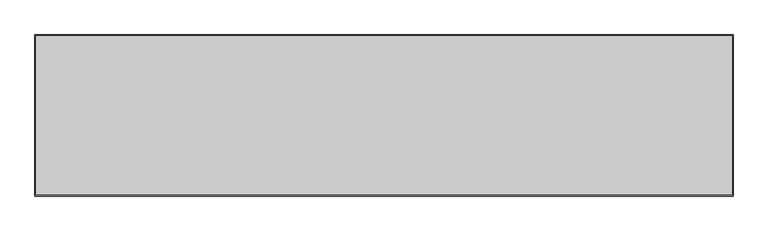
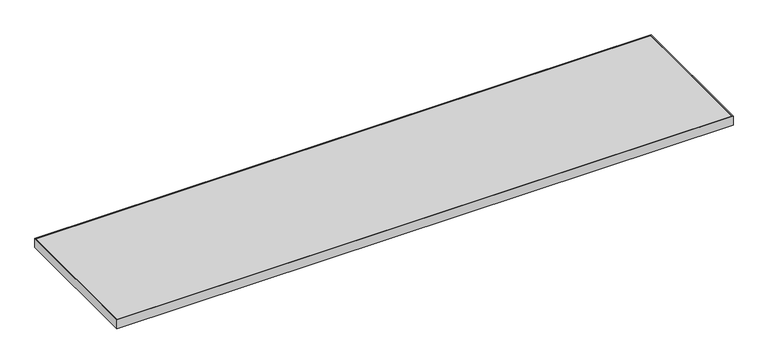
"""IFC4 building model written with IfcOpenShell, lengths in millimetres: furniture geometry, Steelcase - Universal Storage - Square Edge Top - Flush Front - Laminate : Common Top - 18D x 78W."""

from ifc_helpers import new_model, si_unit, frame, origin, place, context, project, spatial, polyline, outline, extrude, source, transform, mapped, element, save


def furniture_5978d7a8(model_context):
    return source(origin(), model_context, "Body", "SweptSolid", [
        extrude(outline(polyline([(1978.1520001, -3.0479999), (1978.1520001, -454.1520001), (3.0479999, -454.1520001), (3.0479999, -3.0479999), (1978.1520001, -3.0479999)])), frame((0.0, 0.0, 680.72), z_axis=(0.0, 0.0, 1.0), x_axis=(1.0, 0.0, 0.0)), (0.0, 0.0, 1.0), 30.48),
        extrude(outline(polyline([(1981.2, 0.0), (1981.2, -457.2), (0.0, -457.2), (0.0, 0.0), (1981.2, 0.0)]), holes=[polyline([(1978.1520001, -3.0479999), (3.0479999, -3.0479999), (3.0479999, -454.1520001), (1978.1520001, -454.1520001), (1978.1520001, -3.0479999)])]), frame((0.0, 0.0, 680.72), z_axis=(0.0, 0.0, 1.0), x_axis=(1.0, 0.0, 0.0)), (0.0, 0.0, 1.0), 30.48),
    ])


if __name__ == "__main__":
    model = new_model("IFC4")
    model_context = context("Model", 3, world=origin())
    ifc_project = project(units=[si_unit("LENGTHUNIT", "METRE", prefix="MILLI")], contexts=[model_context])
    site = spatial("IfcSite", under=ifc_project)
    building = spatial("IfcBuilding", under=site)
    placement = place(None, origin())
    furniture_shape = furniture_5978d7a8(model_context)
    element("IfcFurniture", 1, ObjectType="Steelcase - Universal Storage - Square Edge Top - Flush Front - Laminate : Common Top - 18D x 78W", at=placement, inside=building, context=model_context, shape_type="MappedRepresentation", body=[
        mapped(furniture_shape, transform((0.0, 0.0, 0.0), x_axis=(1.0, 0.0, 0.0), y_axis=(0.0, 1.0, 0.0), z_axis=(0.0, 0.0, 1.0))),
    ])
    save(model, "model.ifc")
